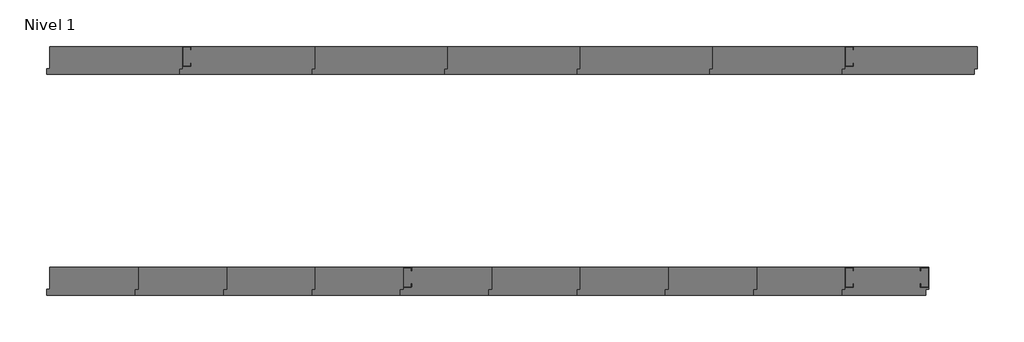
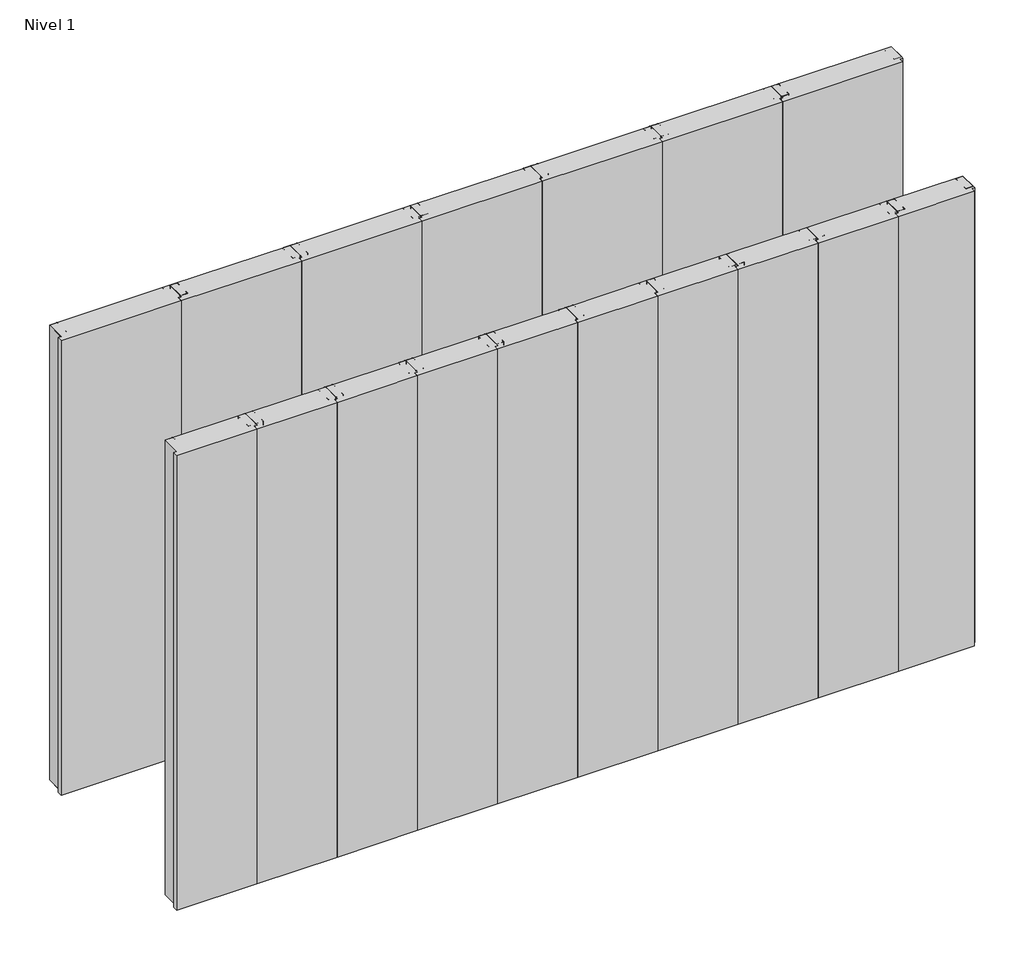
# One storey: 19 members, 17 plates.
"""IFC4 building model written with IfcOpenShell, lengths in millimetres."""

from ifc_helpers import new_model, si_unit, origin, place, context, project, spatial, transform, mapped, element, save
from components import montante_rectangular_montante_pe_ext_der_0bfeced0, montante_rectangular_montante_pe_interior_3dced102, panel_pe_panel_pe_2a13838d, panel_pe_panel_pe_14f966fb, panel_pe_panel_pe_e445d399

model = new_model("IFC4")

# Units and contexts
model_context = context("Model", 3, world=origin())
ifc_project = project(units=[si_unit("LENGTHUNIT", "METRE", prefix="MILLI")], contexts=[model_context])

# Site, building, storey
site = spatial("IfcSite", under=ifc_project)
building = spatial("IfcBuilding", under=site)
storey = spatial("IfcBuildingStorey", under=building, Name="Nivel 1", Elevation=0.0)

# Members
placement = place(None, origin())
montante_rectangular_montante_pe_ext_der_shape = montante_rectangular_montante_pe_ext_der_0bfeced0(model_context)
element("IfcMember", 1, ObjectType="Montante rectangular : Montante PE Ext Izq", at=placement, inside=storey, context=model_context, shape_type="MappedRepresentation", body=[
    mapped(montante_rectangular_montante_pe_ext_der_shape, transform((12263.879298, 14049.6618621, 2400.0), x_axis=(-1.0, 0.0, 0.0), y_axis=(0.0, -1.0, 0.0), z_axis=(0.0, 0.0, 1.0))),
])
element("IfcMember", 2, ObjectType="Montante rectangular : Montante PE Ext Izq", at=placement, inside=storey, context=model_context, shape_type="MappedRepresentation", body=[
    mapped(montante_rectangular_montante_pe_ext_der_shape, transform((12263.879298, 13049.6618621, 2400.0), x_axis=(-1.0, 0.0, 0.0), y_axis=(0.0, -1.0, 0.0), z_axis=(0.0, 0.0, 1.0))),
])
element("IfcMember", 3, ObjectType="Montante rectangular : Montante PE Ext Der", at=placement, inside=storey, context=model_context, shape_type="MappedRepresentation", body=[
    mapped(montante_rectangular_montante_pe_ext_der_shape, transform((16463.879298, 14049.6618621, 0.0), x_axis=(1.0, 0.0, 0.0), y_axis=(0.0, -1.0, 0.0), z_axis=(0.0, 0.0, -1.0))),
])
element("IfcMember", 4, ObjectType="Montante rectangular : Montante PE Ext Der", at=placement, inside=storey, context=model_context, shape_type="MappedRepresentation", body=[
    mapped(montante_rectangular_montante_pe_ext_der_shape, transform((16243.879298, 13049.6618621, 0.0), x_axis=(1.0, 0.0, 0.0), y_axis=(0.0, -1.0, 0.0), z_axis=(0.0, 0.0, -1.0))),
])
montante_rectangular_montante_pe_interior_shape = montante_rectangular_montante_pe_interior_3dced102(model_context)
element("IfcMember", 5, ObjectType="Montante rectangular : Montante PE Interior", at=placement, inside=storey, context=model_context, shape_type="MappedRepresentation", body=[
    mapped(montante_rectangular_montante_pe_interior_shape, transform((12863.8792983, 14049.6618621, 0.0), x_axis=(1.0, 0.0, 0.0), y_axis=(0.0, -1.0, 0.0), z_axis=(0.0, 0.0, -1.0))),
])
element("IfcMember", 6, ObjectType="Montante rectangular : Montante PE Interior", at=placement, inside=storey, context=model_context, shape_type="MappedRepresentation", body=[
    mapped(montante_rectangular_montante_pe_interior_shape, transform((13463.8792983, 14049.6618621, 0.0), x_axis=(1.0, 0.0, 0.0), y_axis=(0.0, -1.0, 0.0), z_axis=(0.0, 0.0, -1.0))),
])
element("IfcMember", 7, ObjectType="Montante rectangular : Montante PE Interior", at=placement, inside=storey, context=model_context, shape_type="MappedRepresentation", body=[
    mapped(montante_rectangular_montante_pe_interior_shape, transform((14063.8792983, 14049.6618621, 0.0), x_axis=(1.0, 0.0, 0.0), y_axis=(0.0, -1.0, 0.0), z_axis=(0.0, 0.0, -1.0))),
])
element("IfcMember", 8, ObjectType="Montante rectangular : Montante PE Interior", at=placement, inside=storey, context=model_context, shape_type="MappedRepresentation", body=[
    mapped(montante_rectangular_montante_pe_interior_shape, transform((14663.8792983, 14049.6618621, 0.0), x_axis=(1.0, 0.0, 0.0), y_axis=(0.0, -1.0, 0.0), z_axis=(0.0, 0.0, -1.0))),
])
element("IfcMember", 9, ObjectType="Montante rectangular : Montante PE Interior", at=placement, inside=storey, context=model_context, shape_type="MappedRepresentation", body=[
    mapped(montante_rectangular_montante_pe_interior_shape, transform((15263.8792983, 14049.6618621, 0.0), x_axis=(1.0, 0.0, 0.0), y_axis=(0.0, -1.0, 0.0), z_axis=(0.0, 0.0, -1.0))),
])
element("IfcMember", 10, ObjectType="Montante rectangular : Montante PE Interior", at=placement, inside=storey, context=model_context, shape_type="MappedRepresentation", body=[
    mapped(montante_rectangular_montante_pe_interior_shape, transform((15863.8792983, 14049.6618621, 0.0), x_axis=(1.0, 0.0, 0.0), y_axis=(0.0, -1.0, 0.0), z_axis=(0.0, 0.0, -1.0))),
])
element("IfcMember", 11, ObjectType="Montante rectangular : Montante PE Interior", at=placement, inside=storey, context=model_context, shape_type="MappedRepresentation", body=[
    mapped(montante_rectangular_montante_pe_interior_shape, transform((12663.8792983, 13049.6618621, 0.0), x_axis=(1.0, 0.0, 0.0), y_axis=(0.0, -1.0, 0.0), z_axis=(0.0, 0.0, -1.0))),
])
element("IfcMember", 12, ObjectType="Montante rectangular : Montante PE Interior", at=placement, inside=storey, context=model_context, shape_type="MappedRepresentation", body=[
    mapped(montante_rectangular_montante_pe_interior_shape, transform((13063.8792983, 13049.6618621, 0.0), x_axis=(1.0, 0.0, 0.0), y_axis=(0.0, -1.0, 0.0), z_axis=(0.0, 0.0, -1.0))),
])
element("IfcMember", 13, ObjectType="Montante rectangular : Montante PE Interior", at=placement, inside=storey, context=model_context, shape_type="MappedRepresentation", body=[
    mapped(montante_rectangular_montante_pe_interior_shape, transform((13463.8792983, 13049.6618621, 0.0), x_axis=(1.0, 0.0, 0.0), y_axis=(0.0, -1.0, 0.0), z_axis=(0.0, 0.0, -1.0))),
])
element("IfcMember", 14, ObjectType="Montante rectangular : Montante PE Interior", at=placement, inside=storey, context=model_context, shape_type="MappedRepresentation", body=[
    mapped(montante_rectangular_montante_pe_interior_shape, transform((13863.8792983, 13049.6618621, 0.0), x_axis=(1.0, 0.0, 0.0), y_axis=(0.0, -1.0, 0.0), z_axis=(0.0, 0.0, -1.0))),
])
element("IfcMember", 15, ObjectType="Montante rectangular : Montante PE Interior", at=placement, inside=storey, context=model_context, shape_type="MappedRepresentation", body=[
    mapped(montante_rectangular_montante_pe_interior_shape, transform((14263.8792983, 13049.6618621, 0.0), x_axis=(1.0, 0.0, 0.0), y_axis=(0.0, -1.0, 0.0), z_axis=(0.0, 0.0, -1.0))),
])
element("IfcMember", 16, ObjectType="Montante rectangular : Montante PE Interior", at=placement, inside=storey, context=model_context, shape_type="MappedRepresentation", body=[
    mapped(montante_rectangular_montante_pe_interior_shape, transform((14663.8792983, 13049.6618621, 0.0), x_axis=(1.0, 0.0, 0.0), y_axis=(0.0, -1.0, 0.0), z_axis=(0.0, 0.0, -1.0))),
])
element("IfcMember", 17, ObjectType="Montante rectangular : Montante PE Interior", at=placement, inside=storey, context=model_context, shape_type="MappedRepresentation", body=[
    mapped(montante_rectangular_montante_pe_interior_shape, transform((15063.8792983, 13049.6618621, 0.0), x_axis=(1.0, 0.0, 0.0), y_axis=(0.0, -1.0, 0.0), z_axis=(0.0, 0.0, -1.0))),
])
element("IfcMember", 18, ObjectType="Montante rectangular : Montante PE Interior", at=placement, inside=storey, context=model_context, shape_type="MappedRepresentation", body=[
    mapped(montante_rectangular_montante_pe_interior_shape, transform((15463.8792983, 13049.6618621, 0.0), x_axis=(1.0, 0.0, 0.0), y_axis=(0.0, -1.0, 0.0), z_axis=(0.0, 0.0, -1.0))),
])
element("IfcMember", 19, ObjectType="Montante rectangular : Montante PE Interior", at=placement, inside=storey, context=model_context, shape_type="MappedRepresentation", body=[
    mapped(montante_rectangular_montante_pe_interior_shape, transform((15863.8792983, 13049.6618621, 0.0), x_axis=(1.0, 0.0, 0.0), y_axis=(0.0, -1.0, 0.0), z_axis=(0.0, 0.0, -1.0))),
])

# Plates
panel_pe_panel_pe_shape = panel_pe_panel_pe_2a13838d(model_context)
element("IfcPlate", 20, ObjectType="Panel PE : Panel PE", at=placement, inside=storey, context=model_context, shape_type="MappedRepresentation", body=[
    mapped(panel_pe_panel_pe_shape, transform((12563.8792982, 14049.6618621, 0.0), x_axis=(1.0, 0.0, 0.0), y_axis=(0.0, 1.0, 0.0), z_axis=(0.0, 0.0, 1.0))),
])
element("IfcPlate", 21, ObjectType="Panel PE : Panel PE", at=placement, inside=storey, context=model_context, shape_type="MappedRepresentation", body=[
    mapped(panel_pe_panel_pe_shape, transform((13163.8792983, 14049.6618621, 0.0), x_axis=(1.0, 0.0, 0.0), y_axis=(0.0, 1.0, 0.0), z_axis=(0.0, 0.0, 1.0))),
])
element("IfcPlate", 22, ObjectType="Panel PE : Panel PE", at=placement, inside=storey, context=model_context, shape_type="MappedRepresentation", body=[
    mapped(panel_pe_panel_pe_shape, transform((13763.8792983, 14049.6618621, 0.0), x_axis=(1.0, 0.0, 0.0), y_axis=(0.0, 1.0, 0.0), z_axis=(0.0, 0.0, 1.0))),
])
element("IfcPlate", 23, ObjectType="Panel PE : Panel PE", at=placement, inside=storey, context=model_context, shape_type="MappedRepresentation", body=[
    mapped(panel_pe_panel_pe_shape, transform((14363.8792983, 14049.6618621, 0.0), x_axis=(1.0, 0.0, 0.0), y_axis=(0.0, 1.0, 0.0), z_axis=(0.0, 0.0, 1.0))),
])
element("IfcPlate", 24, ObjectType="Panel PE : Panel PE", at=placement, inside=storey, context=model_context, shape_type="MappedRepresentation", body=[
    mapped(panel_pe_panel_pe_shape, transform((14963.8792983, 14049.6618621, 0.0), x_axis=(1.0, 0.0, 0.0), y_axis=(0.0, 1.0, 0.0), z_axis=(0.0, 0.0, 1.0))),
])
element("IfcPlate", 25, ObjectType="Panel PE : Panel PE", at=placement, inside=storey, context=model_context, shape_type="MappedRepresentation", body=[
    mapped(panel_pe_panel_pe_shape, transform((15563.8792983, 14049.6618621, 0.0), x_axis=(1.0, 0.0, 0.0), y_axis=(0.0, 1.0, 0.0), z_axis=(0.0, 0.0, 1.0))),
])
element("IfcPlate", 26, ObjectType="Panel PE : Panel PE", at=placement, inside=storey, context=model_context, shape_type="MappedRepresentation", body=[
    mapped(panel_pe_panel_pe_shape, transform((16163.8792982, 14049.6618621, 0.0), x_axis=(1.0, 0.0, 0.0), y_axis=(0.0, 1.0, 0.0), z_axis=(0.0, 0.0, 1.0))),
])
panel_pe_panel_pe_2_shape = panel_pe_panel_pe_14f966fb(model_context)
element("IfcPlate", 27, ObjectType="Panel PE : Panel PE", at=placement, inside=storey, context=model_context, shape_type="MappedRepresentation", body=[
    mapped(panel_pe_panel_pe_2_shape, transform((12463.8792982, 13049.6618621, 0.0), x_axis=(1.0, 0.0, 0.0), y_axis=(0.0, 1.0, 0.0), z_axis=(0.0, 0.0, 1.0))),
])
element("IfcPlate", 28, ObjectType="Panel PE : Panel PE", at=placement, inside=storey, context=model_context, shape_type="MappedRepresentation", body=[
    mapped(panel_pe_panel_pe_2_shape, transform((12863.8792983, 13049.6618621, 0.0), x_axis=(1.0, 0.0, 0.0), y_axis=(0.0, 1.0, 0.0), z_axis=(0.0, 0.0, 1.0))),
])
element("IfcPlate", 29, ObjectType="Panel PE : Panel PE", at=placement, inside=storey, context=model_context, shape_type="MappedRepresentation", body=[
    mapped(panel_pe_panel_pe_2_shape, transform((13263.8792983, 13049.6618621, 0.0), x_axis=(1.0, 0.0, 0.0), y_axis=(0.0, 1.0, 0.0), z_axis=(0.0, 0.0, 1.0))),
])
element("IfcPlate", 30, ObjectType="Panel PE : Panel PE", at=placement, inside=storey, context=model_context, shape_type="MappedRepresentation", body=[
    mapped(panel_pe_panel_pe_2_shape, transform((13663.8792983, 13049.6618621, 0.0), x_axis=(1.0, 0.0, 0.0), y_axis=(0.0, 1.0, 0.0), z_axis=(0.0, 0.0, 1.0))),
])
element("IfcPlate", 31, ObjectType="Panel PE : Panel PE", at=placement, inside=storey, context=model_context, shape_type="MappedRepresentation", body=[
    mapped(panel_pe_panel_pe_2_shape, transform((14063.8792983, 13049.6618621, 0.0), x_axis=(1.0, 0.0, 0.0), y_axis=(0.0, 1.0, 0.0), z_axis=(0.0, 0.0, 1.0))),
])
element("IfcPlate", 32, ObjectType="Panel PE : Panel PE", at=placement, inside=storey, context=model_context, shape_type="MappedRepresentation", body=[
    mapped(panel_pe_panel_pe_2_shape, transform((14463.8792983, 13049.6618621, 0.0), x_axis=(1.0, 0.0, 0.0), y_axis=(0.0, 1.0, 0.0), z_axis=(0.0, 0.0, 1.0))),
])
element("IfcPlate", 33, ObjectType="Panel PE : Panel PE", at=placement, inside=storey, context=model_context, shape_type="MappedRepresentation", body=[
    mapped(panel_pe_panel_pe_2_shape, transform((14863.8792983, 13049.6618621, 0.0), x_axis=(1.0, 0.0, 0.0), y_axis=(0.0, 1.0, 0.0), z_axis=(0.0, 0.0, 1.0))),
])
element("IfcPlate", 34, ObjectType="Panel PE : Panel PE", at=placement, inside=storey, context=model_context, shape_type="MappedRepresentation", body=[
    mapped(panel_pe_panel_pe_2_shape, transform((15263.8792983, 13049.6618621, 0.0), x_axis=(1.0, 0.0, 0.0), y_axis=(0.0, 1.0, 0.0), z_axis=(0.0, 0.0, 1.0))),
])
element("IfcPlate", 35, ObjectType="Panel PE : Panel PE", at=placement, inside=storey, context=model_context, shape_type="MappedRepresentation", body=[
    mapped(panel_pe_panel_pe_2_shape, transform((15663.8792983, 13049.6618621, 0.0), x_axis=(1.0, 0.0, 0.0), y_axis=(0.0, 1.0, 0.0), z_axis=(0.0, 0.0, 1.0))),
])
panel_pe_panel_pe_3_shape = panel_pe_panel_pe_e445d399(model_context)
element("IfcPlate", 36, ObjectType="Panel PE : Panel PE", at=placement, inside=storey, context=model_context, shape_type="MappedRepresentation", body=[
    mapped(panel_pe_panel_pe_3_shape, transform((16053.8792982, 13049.6618621, 0.0), x_axis=(1.0, 0.0, 0.0), y_axis=(0.0, 1.0, 0.0), z_axis=(0.0, 0.0, 1.0))),
])

save(model, "model.ifc")
